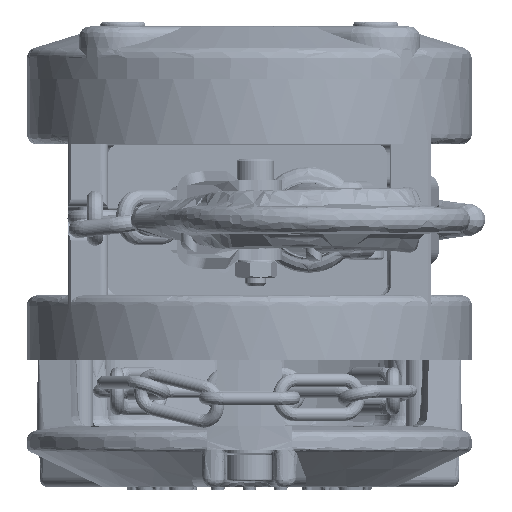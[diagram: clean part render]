
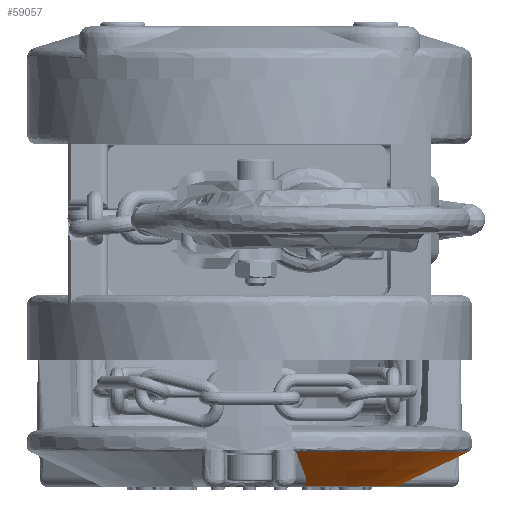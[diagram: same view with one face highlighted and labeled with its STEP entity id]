
A CAD part, front view. The second image highlights one B-rep face of the part: STEP entity #59057.
In plain terms, the highlighted conical face has half-angle 64.231 degrees and reference radius 27.912 mm.
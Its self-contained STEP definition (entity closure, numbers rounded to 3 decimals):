
#2128 = DIRECTION ( 'NONE',  ( 0.901, 0., 0.435 ) ) ;
#2623 = ORIENTED_EDGE ( 'NONE', *, *, #28260, .F. ) ;
#5272 = ORIENTED_EDGE ( 'NONE', *, *, #39184, .F. ) ;
#5891 = CARTESIAN_POINT ( 'NONE',  ( 8.936, -39.85, 6.44 ) ) ;
#6259 = VECTOR ( 'NONE', #2128, 1000. ) ;
#6364 = CARTESIAN_POINT ( 'NONE',  ( 8.701, -40.511, 6.727 ) ) ;
#6416 = CARTESIAN_POINT ( 'NONE',  ( 10.582, -26.677, 0.579 ) ) ;
#6423 = CARTESIAN_POINT ( 'NONE',  ( 8.701, -40.511, 6.727 ) ) ;
#6617 = LINE ( 'NONE', #27966, #6259 ) ;
#8621 = AXIS2_PLACEMENT_3D ( 'NONE', #54887, #61100, #60409 ) ;
#10217 = CARTESIAN_POINT ( 'NONE',  ( 10.151, -26.001, 0.199 ) ) ;
#10844 = B_SPLINE_CURVE_WITH_KNOTS ( 'NONE', 3,
 ( #38435, #22271, #12289, #6423 ),
 .UNSPECIFIED., .F., .F.,
 ( 4, 4 ),
 ( 0., 0.001 ),
 .UNSPECIFIED. ) ;
#12289 = CARTESIAN_POINT ( 'NONE',  ( 8.82, -40.301, 6.64 ) ) ;
#12413 = VERTEX_POINT ( 'NONE', #5891 ) ;
#12780 = ORIENTED_EDGE ( 'NONE', *, *, #42149, .F. ) ;
#16484 = AXIS2_PLACEMENT_3D ( 'NONE', #36001, #31829, #26350 ) ;
#16749 = CARTESIAN_POINT ( 'NONE',  ( 10.697, -29.399, 1.827 ) ) ;
#22271 = CARTESIAN_POINT ( 'NONE',  ( 8.897, -40.081, 6.544 ) ) ;
#22621 = CARTESIAN_POINT ( 'NONE',  ( 10.151, -26.001, 0.199 ) ) ;
#23693 = EDGE_CURVE ( 'NONE', #44664, #40973, #6617, .T. ) ;
#23868 = VERTEX_POINT ( 'NONE', #6364 ) ;
#24486 = VERTEX_POINT ( 'NONE', #10217 ) ;
#26350 = DIRECTION ( 'NONE',  ( 1., 0., 0. ) ) ;
#26417 = CARTESIAN_POINT ( 'NONE',  ( 10.527, -26.526, 0.502 ) ) ;
#26747 = CARTESIAN_POINT ( 'NONE',  ( 10.791, -28.108, 1.259 ) ) ;
#27072 = CARTESIAN_POINT ( 'NONE',  ( 10.784, -28.43, 1.403 ) ) ;
#27407 = CARTESIAN_POINT ( 'NONE',  ( 10.702, -27.146, 0.811 ) ) ;
#27966 = CARTESIAN_POINT ( 'NONE',  ( 27.912, 0., 0.199 ) ) ;
#28260 = EDGE_CURVE ( 'NONE', #44664, #24486, #29393, .T. ) ;
#29154 = CARTESIAN_POINT ( 'NONE',  ( 10.07, -33.117, 3.414 ) ) ;
#29393 = CIRCLE ( 'NONE', #40391, 27.912 ) ;
#30582 = B_SPLINE_CURVE_WITH_KNOTS ( 'NONE', 3,
 ( #60830, #29154, #35350, #34668 ),
 .UNSPECIFIED., .F., .F.,
 ( 4, 4 ),
 ( 0., 0.011 ),
 .UNSPECIFIED. ) ;
#31829 = DIRECTION ( 'NONE',  ( 0., 0., 1. ) ) ;
#34288 = CARTESIAN_POINT ( 'NONE',  ( 27.912, 0., 0.199 ) ) ;
#34668 = CARTESIAN_POINT ( 'NONE',  ( 8.936, -39.85, 6.44 ) ) ;
#34751 = EDGE_CURVE ( 'NONE', #23868, #40973, #49497, .T. ) ;
#35350 = CARTESIAN_POINT ( 'NONE',  ( 9.502, -36.488, 4.916 ) ) ;
#36001 = CARTESIAN_POINT ( 'NONE',  ( 0., 0., 6.727 ) ) ;
#37392 = B_SPLINE_CURVE_WITH_KNOTS ( 'NONE', 3,
 ( #22621, #38083, #42234, #26417, #6416, #63923, #27407, #38428, #64278, #26747, #27072, #48420, #16749, #48071 ),
 .UNSPECIFIED., .F., .F.,
 ( 4, 2, 2, 2, 2, 2, 4 ),
 ( 0., 0.001, 0.001, 0.002, 0.002, 0.003, 0.004 ),
 .UNSPECIFIED. ) ;
#38083 = CARTESIAN_POINT ( 'NONE',  ( 10.281, -26.107, 0.269 ) ) ;
#38428 = CARTESIAN_POINT ( 'NONE',  ( 10.749, -27.466, 0.963 ) ) ;
#38435 = CARTESIAN_POINT ( 'NONE',  ( 8.936, -39.85, 6.44 ) ) ;
#39184 = EDGE_CURVE ( 'NONE', #24486, #53191, #37392, .T. ) ;
#39488 = EDGE_LOOP ( 'NONE', ( #2623, #44248, #45297, #48314, #12780, #5272 ) ) ;
#40391 = AXIS2_PLACEMENT_3D ( 'NONE', #45220, #66589, #61058 ) ;
#40973 = VERTEX_POINT ( 'NONE', #42654 ) ;
#42149 = EDGE_CURVE ( 'NONE', #53191, #12413, #30582, .T. ) ;
#42234 = CARTESIAN_POINT ( 'NONE',  ( 10.375, -26.239, 0.345 ) ) ;
#42654 = CARTESIAN_POINT ( 'NONE',  ( 41.435, 0., 6.727 ) ) ;
#44248 = ORIENTED_EDGE ( 'NONE', *, *, #23693, .T. ) ;
#44664 = VERTEX_POINT ( 'NONE', #34288 ) ;
#44913 = FACE_OUTER_BOUND ( 'NONE', #39488, .T. ) ;
#45220 = CARTESIAN_POINT ( 'NONE',  ( 0., 0., 0.199 ) ) ;
#45297 = ORIENTED_EDGE ( 'NONE', *, *, #34751, .F. ) ;
#48071 = CARTESIAN_POINT ( 'NONE',  ( 10.643, -29.723, 1.965 ) ) ;
#48314 = ORIENTED_EDGE ( 'NONE', *, *, #67459, .F. ) ;
#48420 = CARTESIAN_POINT ( 'NONE',  ( 10.738, -29.076, 1.687 ) ) ;
#49497 = CIRCLE ( 'NONE', #16484, 41.435 ) ;
#53191 = VERTEX_POINT ( 'NONE', #60485 ) ;
#54887 = CARTESIAN_POINT ( 'NONE',  ( 0., 0., 0.199 ) ) ;
#59057 = ADVANCED_FACE ( 'NONE', ( #44913 ), #59151, .T. ) ;
#59151 = CONICAL_SURFACE ( 'NONE', #8621, 27.912, 1.121 ) ;
#60409 = DIRECTION ( 'NONE',  ( 1., 0., 0. ) ) ;
#60485 = CARTESIAN_POINT ( 'NONE',  ( 10.643, -29.723, 1.965 ) ) ;
#60830 = CARTESIAN_POINT ( 'NONE',  ( 10.643, -29.723, 1.965 ) ) ;
#61058 = DIRECTION ( 'NONE',  ( 1., 0., 0. ) ) ;
#61100 = DIRECTION ( 'NONE',  ( 0., 0., 1. ) ) ;
#63923 = CARTESIAN_POINT ( 'NONE',  ( 10.67, -26.986, 0.733 ) ) ;
#64278 = CARTESIAN_POINT ( 'NONE',  ( 10.764, -27.626, 1.037 ) ) ;
#66589 = DIRECTION ( 'NONE',  ( 0., 0., -1. ) ) ;
#67459 = EDGE_CURVE ( 'NONE', #12413, #23868, #10844, .T. ) ;
